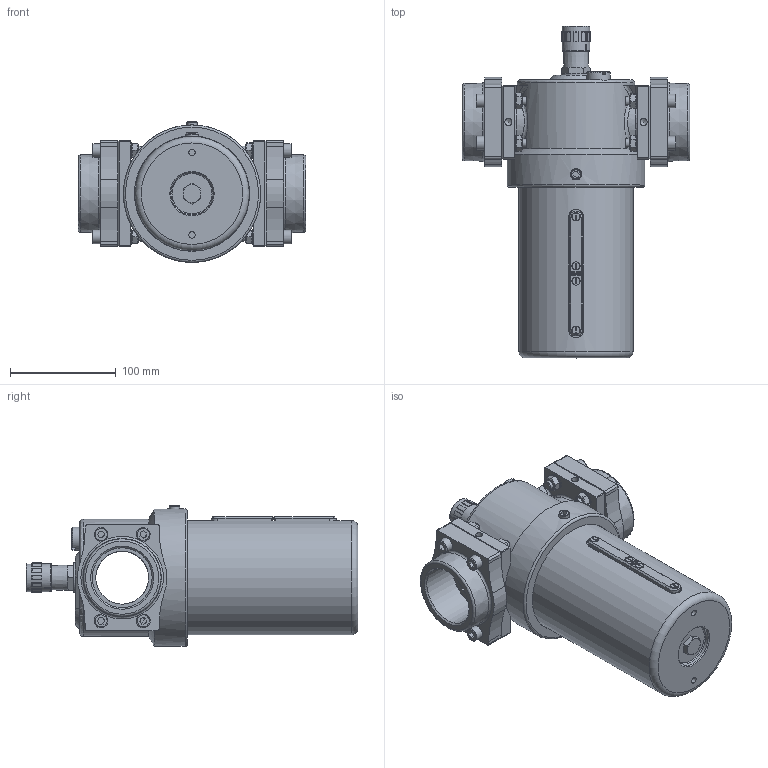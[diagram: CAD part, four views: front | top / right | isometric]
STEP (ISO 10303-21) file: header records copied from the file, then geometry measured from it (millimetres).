
FILE_DESCRIPTION(/* description */ (''),/* implementation_level */ '2;1');
FILE_NAME(/* name */ 'U:/AirCom-Produktdokumentation/Oeler/LD/Zeichnungen/CAD-Aircom/3D/B-LD-16M_01.step',/* time_stamp */ '2022-08-08T11:54:09+02:00',/* author */ (''),/* organization */ (''),/* preprocessor_version */ 'ST-DEVELOPER v19',/* originating_system */ 'Autodesk Translation Framework v11.7.0.108',/* authorisation */ '');
FILE_SCHEMA (('AUTOMOTIVE_DESIGN { 1 0 10303 214 3 1 1 }'));
Length unit declared in the file: millimetre
Products named in the file (48): C87003; P20170; P37013; 0DCE205; 0DCE205_1; 0DCE205_2; 0DCE205_3; 0DCE205_4; 0DCE205_5; 0DCE205_6; 0DCE205_7; 0DM20500; 0DM20500_1; 0DM20500_2; 0DM20500_3; 0DM20500_4; 0DM20500_5; 0DM20500_6; 0DM20500_7; 0DC20516; 0DC20516_1; 0DC20516_2; 0DC20516_3; 0DC20516_4; 0DC20516_5; 0DC20516_6; 0DC20516_7; P34029; P50009; P34131; C60002; P60001; P60002; P53003; P53003_1; P53003_2; P30017; P60009; P40015; OR 13157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
Assembly tree (57 placements, depth 3):
  C87003
    P20170
    P37013  x2
    0DCE205
    0DCE205_1
    0DCE205_2
    0DCE205_3
    0DCE205_4
    0DCE205_5
    0DCE205_6
    0DCE205_7
    0DM20500
    0DM20500_1
    0DM20500_2
    0DM20500_3
    0DM20500_4
    0DM20500_5
    0DM20500_6
    0DM20500_7
    0DC20516
    0DC20516_1
    0DC20516_2
    0DC20516_3
    0DC20516_4
    0DC20516_5
    0DC20516_6
    0DC20516_7
    P34029
    P50009
    P34131
    C60002  x2
      P60001
      P60002
    P53003
    P53003_1
    P53003_2  x2
    P30017
    P60009
    P40015
    OR 13157  x2
    OR 08044
    OR 07032
    OR 18123
    OR 02014  x4
    OR 04159  x4
    OR 07063
    0DK41600
    P53005
Bounding box: 215 x 313.9 x 133.2 mm (x, y, z)
Volume: 807072.1 mm3; surface area: 365303.8 mm2
Topology: 59 solids, 59 shells, 1869 faces, 4988 edges, 3250 vertices
Faces by surface type: plane 811, cylinder 773, cone 148, bspline 74, torus 59, sphere 4
Full cylindrical faces by diameter (mm): 1 x2, 1.5 x8, 2 x2, 3.5 x1, 4.6 x1, 4.7 x1, 4.8 x1, 5 x8, 5.1 x6, 6 x2, 6.647 x12, 6.9 x4, 7 x4, 7.5 x4, 7.7 x4, 8 x11, 8.4 x8, 8.566 x2, 9 x16, 9.728 x2, 10.8 x1, 12 x1, 12.376 x1, 13 x8, 14 x1, 14.4 x1, 16 x1, 20 x1, 21 x4, 21.9 x1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
Entity records: 60951 total; most frequent: CARTESIAN_POINT 14719, DIRECTION 9623, ORIENTED_EDGE 9414, EDGE_CURVE 4707, AXIS2_PLACEMENT_3D 3623, VERTEX_POINT 3089, LINE 2377, VECTOR 2377
